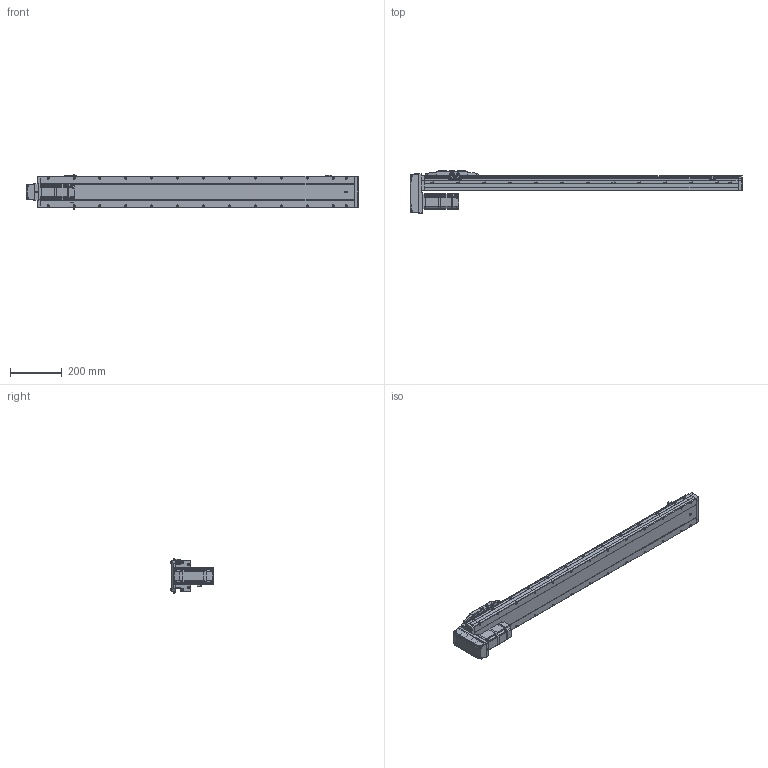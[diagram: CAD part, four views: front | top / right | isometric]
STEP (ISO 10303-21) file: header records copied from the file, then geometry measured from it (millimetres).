
FILE_DESCRIPTION (( 'STEP AP214' ), '1' );
FILE_NAME ('CTH12-L10-S1000-BM-C40（简）.STEP', '2023-02-04T06:41:30', ( '' ), ( '' ), 'SwSTEP 2.0', 'SolidWorks 2018', '' );
FILE_SCHEMA (( 'AUTOMOTIVE_DESIGN' ));
Length unit declared in the file: millimetre
Products named in the file (25): 湮賑怢  裔赽-1(CTH12)賑怢; CTH400W垫板（3个厚）; hex nuts, style 1-grades ab gb_GB_FASTENER_NUT_SNAB1 M3-N; CTH12-BM-02; CTH12-L10-S1000-BM-C40（简）; CTH12_body_3; 内六角圆柱头螺钉M3; 内六角圆柱头螺钉M3-2; 内六角圆柱头螺钉M5装饰螺钉; CTH12底座-L1211简（1000行程）; CTH12覜茼え; 嫖萇羲壽郪磁1; CTH12賑怢郪磁; CTH嫖萇羲壽假蚾啣; 蚐郲; CTH12賑怢ㄗ潠ㄘ; CTH12; PM-Y45; CTH12-BL_body_4; CTH400W假蚾啣; CTH8耜蚾蟀諉啣ㄗ潠ㄘ; 内六角圆柱头螺钉M3-1; BM-C40; AC60_Valor predeterminado; 嫖萇羲壽郪磁2
Assembly tree (45 placements, depth 4):
  CTH12-L10-S1000-BM-C40（简）
    CTH12底座-L1211简（1000行程）
    蚐郲  x2
    CTH12_body_3
    CTH12-BL_body_4
    CTH12賑怢郪磁
      CTH12
        湮賑怢  裔赽-1(CTH12)賑怢
        CTH12賑怢ㄗ潠ㄘ
    CTH12覜茼え
    嫖萇羲壽郪磁1  x2
      CTH嫖萇羲壽假蚾啣
      PM-Y45
      内六角圆柱头螺钉M3-2
      内六角圆柱头螺钉M3-1
      hex nuts, style 1-grades ab gb_GB_FASTENER_NUT_SNAB1 M3-N
    嫖萇羲壽郪磁2
      CTH嫖萇羲壽假蚾啣
      PM-Y45
      内六角圆柱头螺钉M3-1  x2
      内六角圆柱头螺钉M3-2  x2
      hex nuts, style 1-grades ab gb_GB_FASTENER_NUT_SNAB1 M3-N  x2
    BM-C40
      CTH12-BM-02
      CTH8耜蚾蟀諉啣ㄗ潠ㄘ
    CTH400W垫板（3个厚）
    AC60_Valor predeterminado
    内六角圆柱头螺钉M3  x6
    内六角圆柱头螺钉M5装饰螺钉  x4
    CTH400W假蚾啣
Bounding box: 1281.5 x 162.5 x 131.52 mm (x, y, z)
Volume: 8582737 mm3; surface area: 765152.1 mm2
Topology: 47 solids, 48 shells, 2952 faces, 7488 edges, 4755 vertices
Faces by surface type: plane 1566, cylinder 865, cone 351, bspline 118, torus 52
Entity records: 82593 total; most frequent: CARTESIAN_POINT 19997, ORIENTED_EDGE 12156, DIRECTION 12079, EDGE_CURVE 6078, AXIS2_PLACEMENT_3D 4123, VERTEX_POINT 3859, LINE 3833, VECTOR 3833
